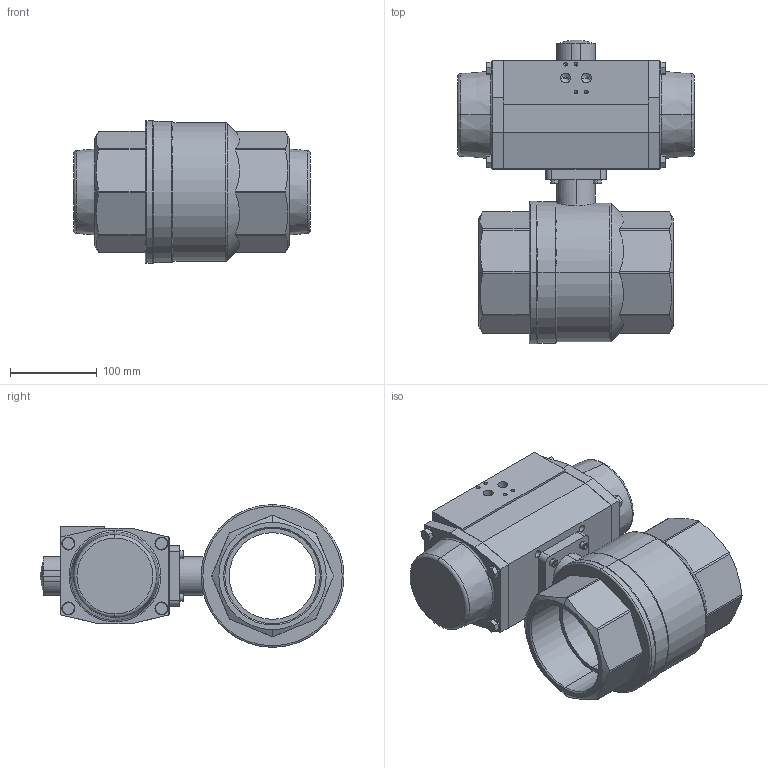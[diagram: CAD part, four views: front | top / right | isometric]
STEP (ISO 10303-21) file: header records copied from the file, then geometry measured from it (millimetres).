
FILE_DESCRIPTION (( 'STEP AP214' ), '1' );
FILE_NAME ('A25-DN100-G4+AP4.step', '2011-03-03T09:46:18', ( '' ), ( '' ), 'SwSTEP 2.0', 'SolidWorks 2011', '' );
FILE_SCHEMA (( 'AUTOMOTIVE_DESIGN' ));
Length unit declared in the file: millimetre
Products named in the file (4): DIN 912 M5 x 20 --- 20N_DIN 912 M5 x 20 --- 20N; AP4_Default<As Machined>; Ballvalve A25-DN100 G4; A25-DN100-G4+AP4
Assembly tree (6 placements, depth 2):
  A25-DN100-G4+AP4
    DIN 912 M5 x 20 --- 20N_DIN 912 M5 x 20 --- 20N  x4
    AP4_Default<As Machined>
    Ballvalve A25-DN100 G4
Bounding box: 273.5 x 351.01 x 165 mm (x, y, z)
Volume: 5176021.8 mm3; surface area: 378267.7 mm2
Topology: 13 solids, 13 shells, 496 faces, 1164 edges, 698 vertices
Faces by surface type: plane 269, cylinder 127, cone 66, torus 32, sphere 2
Entity records: 13447 total; most frequent: CARTESIAN_POINT 2619, DIRECTION 2056, ORIENTED_EDGE 1904, EDGE_CURVE 952, AXIS2_PLACEMENT_3D 738, VERTEX_POINT 599, LINE 580, VECTOR 580
